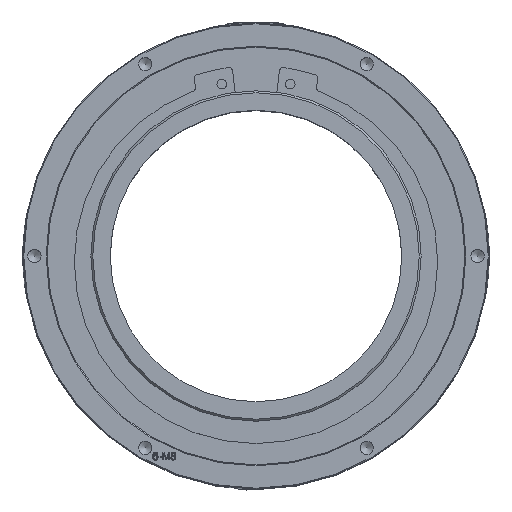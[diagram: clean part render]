
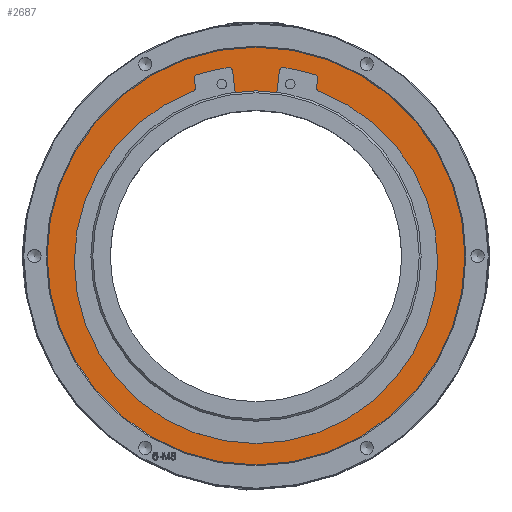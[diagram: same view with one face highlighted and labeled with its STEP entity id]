
A CAD part, top view. The second image highlights one B-rep face of the part: STEP entity #2687.
In plain terms, the highlighted planar face has unit normal (0, 0, 1).
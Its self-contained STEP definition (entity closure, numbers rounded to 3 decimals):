
#218=FACE_BOUND('',#7732,.T.);
#219=FACE_BOUND('',#7733,.T.);
#596=CIRCLE('',#27581,1.5);
#597=CIRCLE('',#27582,83.);
#598=CIRCLE('',#27583,1.5);
#599=CIRCLE('',#27584,2.);
#600=CIRCLE('',#27585,99.);
#601=CIRCLE('',#27586,2.);
#602=CIRCLE('',#27587,2.);
#603=CIRCLE('',#27588,93.5);
#604=CIRCLE('',#27589,2.);
#605=CIRCLE('',#27590,2.);
#606=CIRCLE('',#27591,99.);
#607=CIRCLE('',#27592,2.);
#608=CIRCLE('',#27593,107.5);
#1188=PLANE('',#27594);
#1661=LINE('',#47475,#4994);
#1662=LINE('',#47484,#4995);
#1663=LINE('',#47492,#4996);
#1664=LINE('',#47500,#4997);
#2687=ADVANCED_FACE('',(#218,#219),#1188,.T.);
#4994=VECTOR('',#29836,1.);
#4995=VECTOR('',#29843,1.);
#4996=VECTOR('',#29850,1.);
#4997=VECTOR('',#29857,1.);
#7732=EDGE_LOOP('',(#11962,#11963,#11964,#11965,#11966,#11967,#11968,#11969,
#11970,#11971,#11972,#11973,#11974,#11975,#11976,#11977));
#7733=EDGE_LOOP('',(#11978));
#11962=ORIENTED_EDGE('',*,*,#21686,.F.);
#11963=ORIENTED_EDGE('',*,*,#21687,.T.);
#11964=ORIENTED_EDGE('',*,*,#21688,.F.);
#11965=ORIENTED_EDGE('',*,*,#21689,.T.);
#11966=ORIENTED_EDGE('',*,*,#21690,.T.);
#11967=ORIENTED_EDGE('',*,*,#21691,.T.);
#11968=ORIENTED_EDGE('',*,*,#21692,.F.);
#11969=ORIENTED_EDGE('',*,*,#21693,.T.);
#11970=ORIENTED_EDGE('',*,*,#21694,.F.);
#11971=ORIENTED_EDGE('',*,*,#21695,.T.);
#11972=ORIENTED_EDGE('',*,*,#21696,.F.);
#11973=ORIENTED_EDGE('',*,*,#21697,.T.);
#11974=ORIENTED_EDGE('',*,*,#21698,.T.);
#11975=ORIENTED_EDGE('',*,*,#21699,.T.);
#11976=ORIENTED_EDGE('',*,*,#21700,.F.);
#11977=ORIENTED_EDGE('',*,*,#21701,.T.);
#11978=ORIENTED_EDGE('',*,*,#21702,.T.);
#18162=VERTEX_POINT('',#47476);
#18163=VERTEX_POINT('',#47477);
#18164=VERTEX_POINT('',#47479);
#18165=VERTEX_POINT('',#47481);
#18166=VERTEX_POINT('',#47483);
#18167=VERTEX_POINT('',#47485);
#18168=VERTEX_POINT('',#47487);
#18169=VERTEX_POINT('',#47489);
#18170=VERTEX_POINT('',#47491);
#18171=VERTEX_POINT('',#47493);
#18172=VERTEX_POINT('',#47495);
#18173=VERTEX_POINT('',#47497);
#18174=VERTEX_POINT('',#47499);
#18175=VERTEX_POINT('',#47501);
#18176=VERTEX_POINT('',#47503);
#18177=VERTEX_POINT('',#47505);
#18178=VERTEX_POINT('',#47508);
#21686=EDGE_CURVE('',#18162,#18163,#1661,.T.);
#21687=EDGE_CURVE('',#18162,#18164,#596,.T.);
#21688=EDGE_CURVE('',#18165,#18164,#597,.T.);
#21689=EDGE_CURVE('',#18165,#18166,#598,.T.);
#21690=EDGE_CURVE('',#18166,#18167,#1662,.T.);
#21691=EDGE_CURVE('',#18167,#18168,#599,.T.);
#21692=EDGE_CURVE('',#18169,#18168,#600,.T.);
#21693=EDGE_CURVE('',#18169,#18170,#601,.T.);
#21694=EDGE_CURVE('',#18171,#18170,#1663,.T.);
#21695=EDGE_CURVE('',#18171,#18172,#602,.T.);
#21696=EDGE_CURVE('',#18173,#18172,#603,.T.);
#21697=EDGE_CURVE('',#18173,#18174,#604,.T.);
#21698=EDGE_CURVE('',#18174,#18175,#1664,.T.);
#21699=EDGE_CURVE('',#18175,#18176,#605,.T.);
#21700=EDGE_CURVE('',#18177,#18176,#606,.T.);
#21701=EDGE_CURVE('',#18177,#18163,#607,.T.);
#21702=EDGE_CURVE('',#18178,#18178,#608,.T.);
#27581=AXIS2_PLACEMENT_3D('',#47478,#29837,#29838);
#27582=AXIS2_PLACEMENT_3D('',#47480,#29839,#29840);
#27583=AXIS2_PLACEMENT_3D('',#47482,#29841,#29842);
#27584=AXIS2_PLACEMENT_3D('',#47486,#29844,#29845);
#27585=AXIS2_PLACEMENT_3D('',#47488,#29846,#29847);
#27586=AXIS2_PLACEMENT_3D('',#47490,#29848,#29849);
#27587=AXIS2_PLACEMENT_3D('',#47494,#29851,#29852);
#27588=AXIS2_PLACEMENT_3D('',#47496,#29853,#29854);
#27589=AXIS2_PLACEMENT_3D('',#47498,#29855,#29856);
#27590=AXIS2_PLACEMENT_3D('',#47502,#29858,#29859);
#27591=AXIS2_PLACEMENT_3D('',#47504,#29860,#29861);
#27592=AXIS2_PLACEMENT_3D('',#47506,#29862,#29863);
#27593=AXIS2_PLACEMENT_3D('',#47507,#29864,#29865);
#27594=AXIS2_PLACEMENT_3D('',#47509,#29866,#29867);
#29836=DIRECTION('',(-0.122,0.993,0.));
#29837=DIRECTION('',(0.,0.,-1.));
#29838=DIRECTION('',(-1.,0.,0.));
#29839=DIRECTION('',(0.,0.,1.));
#29840=DIRECTION('',(1.,0.,0.));
#29841=DIRECTION('',(0.,0.,-1.));
#29842=DIRECTION('',(-1.,0.,0.));
#29843=DIRECTION('',(0.122,0.993,0.));
#29844=DIRECTION('',(0.,0.,-1.));
#29845=DIRECTION('',(-1.,0.,0.));
#29846=DIRECTION('',(0.,0.,1.));
#29847=DIRECTION('',(-1.,0.,0.));
#29848=DIRECTION('',(0.,0.,-1.));
#29849=DIRECTION('',(-1.,0.,0.));
#29850=DIRECTION('',(0.122,0.993,0.));
#29851=DIRECTION('',(0.,0.,1.));
#29852=DIRECTION('',(-1.,0.,0.));
#29853=DIRECTION('',(0.,0.,1.));
#29854=DIRECTION('',(1.,0.,0.));
#29855=DIRECTION('',(0.,0.,1.));
#29856=DIRECTION('',(-1.,0.,0.));
#29857=DIRECTION('',(-0.122,0.993,0.));
#29858=DIRECTION('',(0.,0.,-1.));
#29859=DIRECTION('',(-1.,0.,0.));
#29860=DIRECTION('',(0.,0.,1.));
#29861=DIRECTION('',(-1.,0.,0.));
#29862=DIRECTION('',(0.,0.,-1.));
#29863=DIRECTION('',(-1.,0.,0.));
#29864=DIRECTION('',(0.,0.,1.));
#29865=DIRECTION('',(1.,0.,0.));
#29866=DIRECTION('',(0.,0.,1.));
#29867=DIRECTION('',(1.,0.,0.));
#47475=CARTESIAN_POINT('',(-0.244,-1.015,120.));
#47476=CARTESIAN_POINT('',(-10.658,83.805,120.));
#47477=CARTESIAN_POINT('',(-12.063,95.242,120.));
#47478=CARTESIAN_POINT('',(-12.147,83.622,120.));
#47479=CARTESIAN_POINT('',(-11.932,82.138,120.));
#47480=CARTESIAN_POINT('',(0.,0.,120.));
#47481=CARTESIAN_POINT('',(11.932,82.138,120.));
#47482=CARTESIAN_POINT('',(12.147,83.622,120.));
#47483=CARTESIAN_POINT('',(10.658,83.805,120.));
#47484=CARTESIAN_POINT('',(0.,-3.,120.));
#47485=CARTESIAN_POINT('',(12.063,95.242,120.));
#47486=CARTESIAN_POINT('',(14.048,94.998,120.));
#47487=CARTESIAN_POINT('',(14.332,96.978,120.));
#47488=CARTESIAN_POINT('',(0.244,-1.015,120.));
#47489=CARTESIAN_POINT('',(30.333,93.302,120.));
#47490=CARTESIAN_POINT('',(29.726,91.396,120.));
#47491=CARTESIAN_POINT('',(31.711,91.153,120.));
#47492=CARTESIAN_POINT('',(20.095,-3.452,120.));
#47493=CARTESIAN_POINT('',(31.176,86.801,120.));
#47494=CARTESIAN_POINT('',(33.162,86.558,120.));
#47495=CARTESIAN_POINT('',(32.467,84.682,120.));
#47496=CARTESIAN_POINT('',(0.,-3.,120.));
#47497=CARTESIAN_POINT('',(-32.467,84.682,120.));
#47498=CARTESIAN_POINT('',(-33.162,86.558,120.));
#47499=CARTESIAN_POINT('',(-31.176,86.801,120.));
#47500=CARTESIAN_POINT('',(-30.85,84.14,120.));
#47501=CARTESIAN_POINT('',(-31.711,91.153,120.));
#47502=CARTESIAN_POINT('',(-29.726,91.396,120.));
#47503=CARTESIAN_POINT('',(-30.333,93.302,120.));
#47504=CARTESIAN_POINT('',(-0.244,-1.015,120.));
#47505=CARTESIAN_POINT('',(-14.332,96.978,120.));
#47506=CARTESIAN_POINT('',(-14.048,94.998,120.));
#47507=CARTESIAN_POINT('',(0.,0.,120.));
#47508=CARTESIAN_POINT('',(107.5,0.,120.));
#47509=CARTESIAN_POINT('',(0.,0.,120.));
